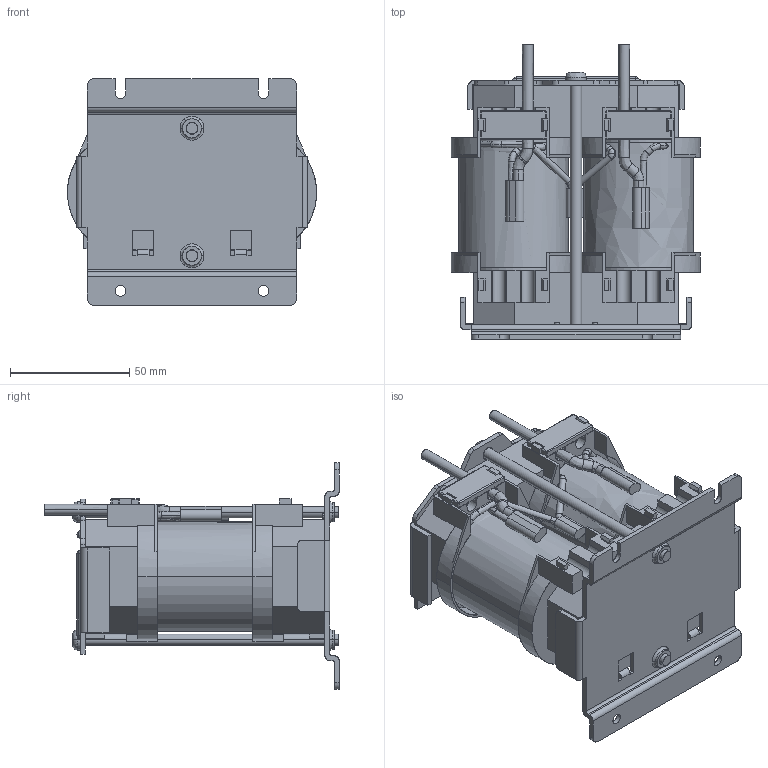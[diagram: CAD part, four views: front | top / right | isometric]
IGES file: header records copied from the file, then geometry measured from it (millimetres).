
Start section: SolidWorks IGES file using analytic representation for surfaces
Global section: file name: \\10.106.230.1\r&d file\05_COMP\02_Mechanical\10_Others\PV_RT 81\网络用3D模型\立式\网络用模型\5KW_G_DCL.IGS; native system: SolidWorks 2009; preprocessor: SolidWorks 2009; author: 钱雅婧,,1; organization: 1; date: 120508.153920; units: millimetre
Bounding box: 104.5 x 123.5 x 95 mm (x, y, z)
Surface area: 118868 mm2 (no closed solid volume)
Topology: 0 solids, 0 shells, 750 faces, 6516 edges, 6500 vertices
Faces by surface type: bspline 491, revolution 259
